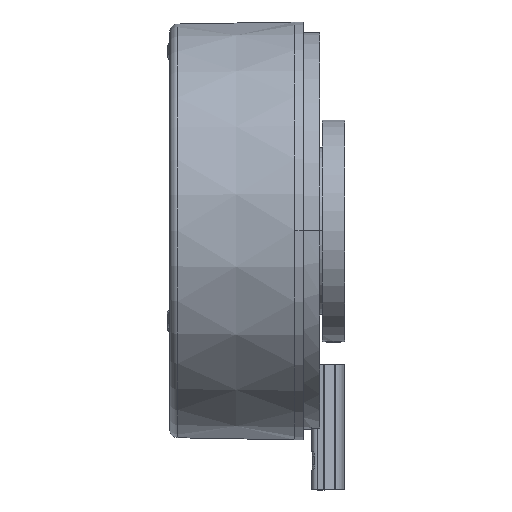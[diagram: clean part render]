
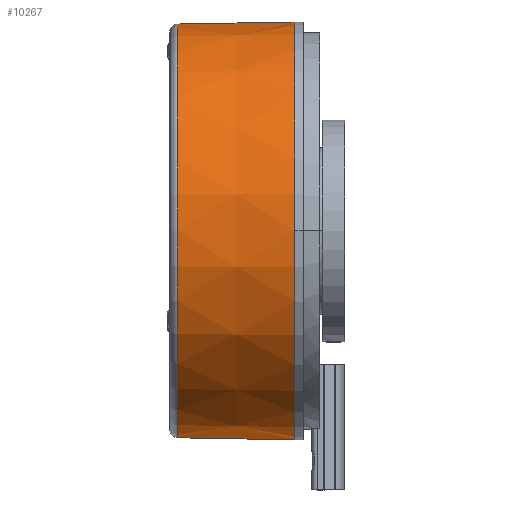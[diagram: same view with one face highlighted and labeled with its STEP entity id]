
A CAD part, top view. The second image highlights one B-rep face of the part: STEP entity #10267.
In plain terms, the highlighted conical face has half-angle 1 degrees and reference radius 50 mm.
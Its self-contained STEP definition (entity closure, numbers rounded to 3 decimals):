
#8523 = DIRECTION ( 'NONE',  ( 0., 1., 0. ) ) ;
#8524 = DIRECTION ( 'NONE',  ( -1., 0., 0. ) ) ;
#8525 = AXIS2_PLACEMENT_3D ( 'NONE', #8532, #8524, #8523 ) ;
#8526 = CIRCLE ( 'NONE', #8525, 50. ) ;
#8532 = CARTESIAN_POINT ( 'NONE',  ( 43.227, -3.167, 0. ) ) ;
#8572 = FACE_OUTER_BOUND ( 'NONE', #10260, .T. ) ;
#8577 = DIRECTION ( 'NONE',  ( 0., 1., 0. ) ) ;
#8578 = DIRECTION ( 'NONE',  ( 1., 0., 0. ) ) ;
#8579 = CARTESIAN_POINT ( 'NONE',  ( 15.192, -3.167, 0. ) ) ;
#8580 = AXIS2_PLACEMENT_3D ( 'NONE', #8579, #8578, #8577 ) ;
#8585 = CIRCLE ( 'NONE', #8580, 49.511 ) ;
#8599 = DIRECTION ( 'NONE',  ( 0., -1., 0. ) ) ;
#8600 = DIRECTION ( 'NONE',  ( 1., 0., 0. ) ) ;
#8601 = CARTESIAN_POINT ( 'NONE',  ( 43.227, -3.167, 0. ) ) ;
#8602 = AXIS2_PLACEMENT_3D ( 'NONE', #8601, #8600, #8599 ) ;
#8605 = CONICAL_SURFACE ( 'NONE', #8602, 50., 0.017 ) ;
#8636 = CARTESIAN_POINT ( 'NONE',  ( 43.227, -53.167, 0. ) ) ;
#8643 = DIRECTION ( 'NONE',  ( 1., 0.017, 0. ) ) ;
#8644 = VECTOR ( 'NONE', #8643, 1000. ) ;
#8645 = CARTESIAN_POINT ( 'NONE',  ( 43.227, 46.833, 0. ) ) ;
#8646 = LINE ( 'NONE', #8645, #8644 ) ;
#8651 = DIRECTION ( 'NONE',  ( 1., -0.017, 0. ) ) ;
#8652 = VECTOR ( 'NONE', #8651, 1000. ) ;
#8653 = CARTESIAN_POINT ( 'NONE',  ( 43.227, -53.167, 0. ) ) ;
#8654 = LINE ( 'NONE', #8653, #8652 ) ;
#8655 = CARTESIAN_POINT ( 'NONE',  ( 15.192, -52.677, 0. ) ) ;
#8753 = CARTESIAN_POINT ( 'NONE',  ( 15.192, 46.344, 0. ) ) ;
#8754 = CARTESIAN_POINT ( 'NONE',  ( 43.227, 46.833, 0. ) ) ;
#10248 = EDGE_CURVE ( 'NONE', #10281, #10315, #8526, .T. ) ;
#10260 = EDGE_LOOP ( 'NONE', ( #10261, #10262, #10271, #10282 ) ) ;
#10261 = ORIENTED_EDGE ( 'NONE', *, *, #10277, .F. ) ;
#10262 = ORIENTED_EDGE ( 'NONE', *, *, #10264, .T. ) ;
#10264 = EDGE_CURVE ( 'NONE', #10316, #10270, #8585, .T. ) ;
#10267 = ADVANCED_FACE ( 'NONE', ( #8572 ), #8605, .T. ) ;
#10270 = VERTEX_POINT ( 'NONE', #8655 ) ;
#10271 = ORIENTED_EDGE ( 'NONE', *, *, #10272, .T. ) ;
#10272 = EDGE_CURVE ( 'NONE', #10270, #10281, #8654, .T. ) ;
#10277 = EDGE_CURVE ( 'NONE', #10316, #10315, #8646, .T. ) ;
#10281 = VERTEX_POINT ( 'NONE', #8636 ) ;
#10282 = ORIENTED_EDGE ( 'NONE', *, *, #10248, .T. ) ;
#10315 = VERTEX_POINT ( 'NONE', #8754 ) ;
#10316 = VERTEX_POINT ( 'NONE', #8753 ) ;
